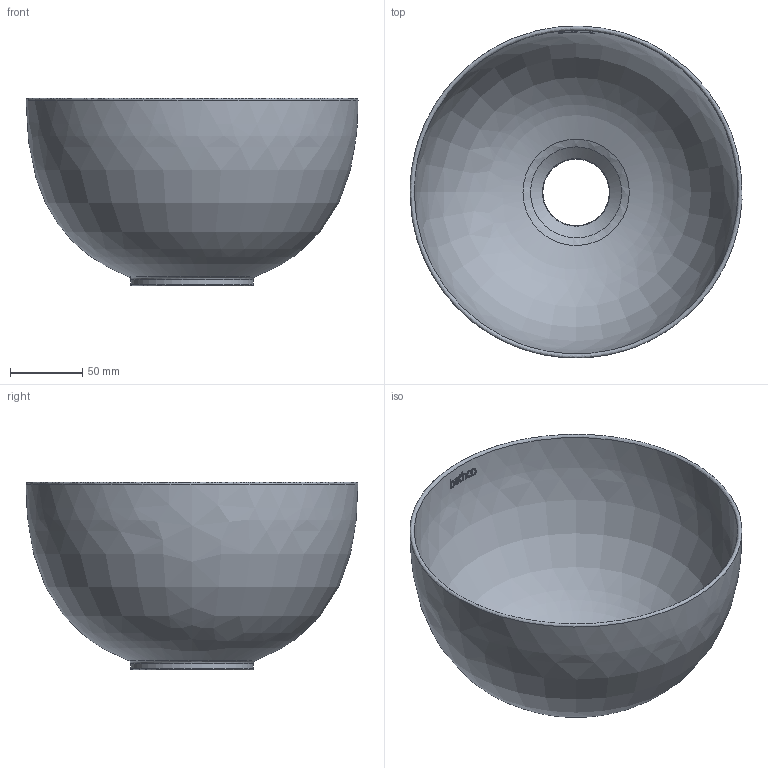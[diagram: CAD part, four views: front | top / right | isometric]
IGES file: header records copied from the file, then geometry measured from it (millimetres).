
Global section: file name: C:\Users\User\Desktop\4912 Mini Lys\4912_Mini Lys_3D.igs; native system: Rhinoceros ( Jan 23 2018 ); preprocessor: Trout Lake IGES 012 Jan 23 2018; date: 210311.104610; units: millimetre
Bounding box: 229.86 x 229.78 x 130 mm (x, y, z)
Surface area: 180613 mm2 (no closed solid volume)
Topology: 0 solids, 0 shells, 70 faces, 449 edges, 434 vertices
Faces by surface type: bspline 70
